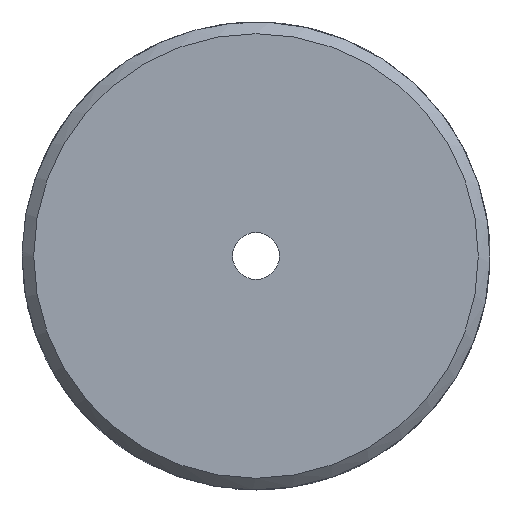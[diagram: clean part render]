
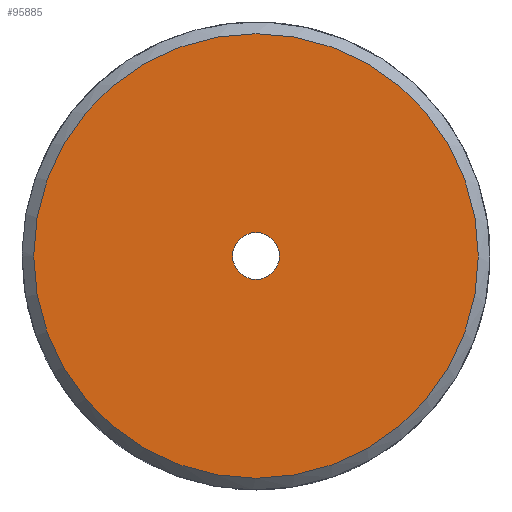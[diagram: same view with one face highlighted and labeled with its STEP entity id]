
A CAD part, left-side view. The second image highlights one B-rep face of the part: STEP entity #95885.
In plain terms, the highlighted planar face has unit normal (-1, 0, 0).
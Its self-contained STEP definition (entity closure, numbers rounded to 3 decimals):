
#26987=PLANE('',#94797);
#34850=ORIENTED_EDGE('',*,*,#37515,.F.);
#34851=ORIENTED_EDGE('',*,*,#40209,.F.);
#34853=CIRCLE('',#93234,9.5);
#35637=CIRCLE('',#94796,1.);
#35639=VERTEX_POINT('',#45009);
#37513=VERTEX_POINT('',#93227);
#37515=EDGE_CURVE('',#35639,#35639,#34853,.T.);
#40209=EDGE_CURVE('',#37513,#37513,#35637,.T.);
#41038=EDGE_LOOP('',(#34850));
#41039=EDGE_LOOP('',(#34851));
#41868=FACE_BOUND('',#41038,.T.);
#41869=FACE_BOUND('',#41039,.T.);
#41874=DIRECTION('',(1.,0.,0.));
#41875=DIRECTION('',(0.,0.,-9.5));
#44998=DIRECTION('',(-1.,0.,0.));
#44999=DIRECTION('',(0.,0.,1.));
#45000=DIRECTION('',(-1.,0.,0.));
#45001=DIRECTION('',(0.,1.,0.));
#45009=CARTESIAN_POINT('',(0.,0.,-9.5));
#45010=CARTESIAN_POINT('',(0.,0.,0.));
#93227=CARTESIAN_POINT('',(0.,0.,1.));
#93228=CARTESIAN_POINT('',(0.,0.,0.));
#93229=CARTESIAN_POINT('',(0.,0.,-9.5));
#93234=AXIS2_PLACEMENT_3D('',#45010,#41874,#41875);
#94796=AXIS2_PLACEMENT_3D('',#93228,#44998,#44999);
#94797=AXIS2_PLACEMENT_3D('',#93229,#45000,#45001);
#95885=ADVANCED_FACE('',(#41868,#41869),#26987,.T.);
